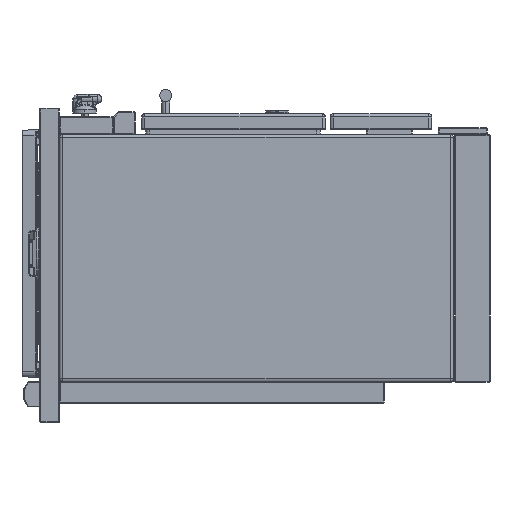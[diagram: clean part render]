
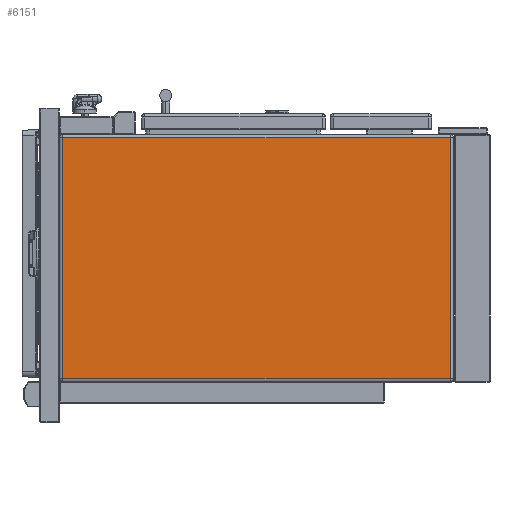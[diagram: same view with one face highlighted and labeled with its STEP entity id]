
A CAD part, left-side view. The second image highlights one B-rep face of the part: STEP entity #6151.
In plain terms, the highlighted planar face has unit normal (-1, 0, 0).
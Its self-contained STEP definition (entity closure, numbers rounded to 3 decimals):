
#1851=DIRECTION('',(0.,1.,0.));
#1852=VECTOR('',#1851,801.);
#1853=CARTESIAN_POINT('',(-700.,82.,249.));
#1854=LINE('',#1853,#1852);
#1855=DIRECTION('',(0.,0.,1.));
#1856=VECTOR('',#1855,498.);
#1857=CARTESIAN_POINT('',(-700.,82.,-249.));
#1858=LINE('',#1857,#1856);
#1859=DIRECTION('',(0.,-1.,0.));
#1860=VECTOR('',#1859,801.);
#1861=CARTESIAN_POINT('',(-700.,883.,-249.));
#1862=LINE('',#1861,#1860);
#1863=DIRECTION('',(0.,0.,-1.));
#1864=VECTOR('',#1863,498.);
#1865=CARTESIAN_POINT('',(-700.,883.,249.));
#1866=LINE('',#1865,#1864);
#2325=CARTESIAN_POINT('',(-700.,82.,249.));
#2326=CARTESIAN_POINT('',(-700.,883.,249.));
#2327=VERTEX_POINT('',#2325);
#2328=VERTEX_POINT('',#2326);
#2329=CARTESIAN_POINT('',(-700.,82.,-249.));
#2330=VERTEX_POINT('',#2329);
#2353=CARTESIAN_POINT('',(-700.,883.,-249.));
#2354=VERTEX_POINT('',#2353);
#6137=CARTESIAN_POINT('',(-700.,0.,0.));
#6138=DIRECTION('',(1.,0.,0.));
#6139=DIRECTION('',(0.,0.,-1.));
#6140=AXIS2_PLACEMENT_3D('',#6137,#6138,#6139);
#6141=PLANE('',#6140);
#6143=ORIENTED_EDGE('',*,*,#6142,.F.);
#6145=ORIENTED_EDGE('',*,*,#6144,.F.);
#6146=ORIENTED_EDGE('',*,*,#6128,.F.);
#6148=ORIENTED_EDGE('',*,*,#6147,.F.);
#6149=EDGE_LOOP('',(#6143,#6145,#6146,#6148));
#6150=FACE_OUTER_BOUND('',#6149,.F.);
#6128=EDGE_CURVE('',#2354,#2330,#1862,.T.);
#6142=EDGE_CURVE('',#2327,#2328,#1854,.T.);
#6144=EDGE_CURVE('',#2330,#2327,#1858,.T.);
#6147=EDGE_CURVE('',#2328,#2354,#1866,.T.);
#6151=ADVANCED_FACE('',(#6150),#6141,.F.);
